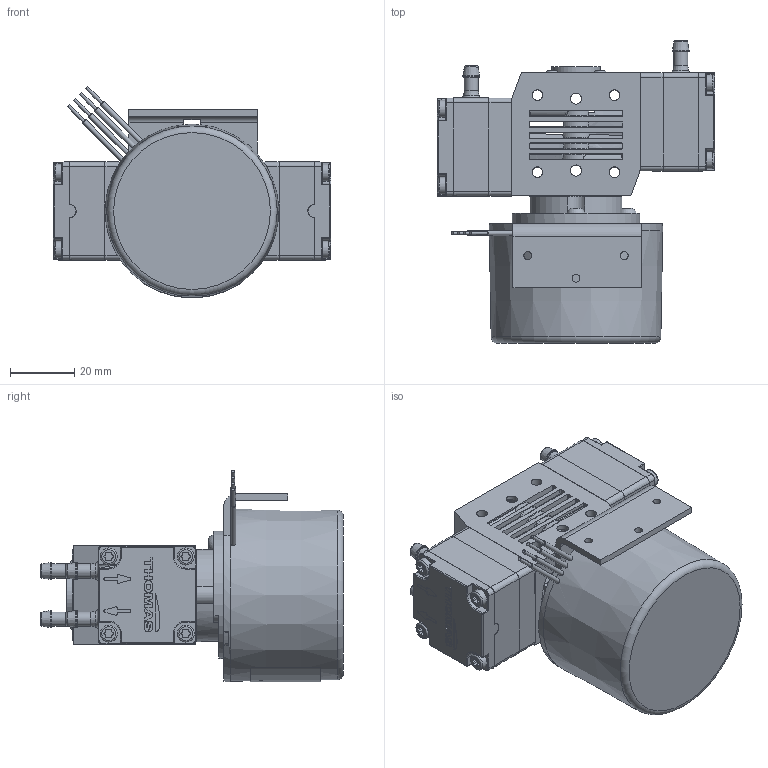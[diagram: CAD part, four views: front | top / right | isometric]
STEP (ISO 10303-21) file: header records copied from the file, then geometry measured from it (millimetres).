
FILE_DESCRIPTION (( 'STEP AP203' ), '1' );
FILE_NAME ('64200004-18.STEP', '2019-07-04T09:41:21', ( 'admin' ), ( 'Gardner Denver' ), 'SwSTEP 2.0', 'SolidWorks 2018', '' );
FILE_SCHEMA (( 'CONFIG_CONTROL_DESIGN' ));
Length unit declared in the file: millimetre
Products named in the file (1): 64200004-18
Bounding box: 86.4 x 94.25 x 65.8 mm (x, y, z)
Surface area: 36337.6 mm2 (no closed solid volume)
Topology: 0 solids, 33 shells, 1097 faces, 5082 edges, 3842 vertices
Faces by surface type: plane 496, cylinder 402, torus 92, cone 51, bspline 49, sphere 7
Full cylindrical faces by diameter (mm): 1 x4, 1.5 x4, 1.95 x4, 2.46 x3, 3 x1, 3.2 x4, 3.3 x8, 3.5 x8, 4.4 x4, 5 x4, 5.2 x4, 5.3 x8, 6 x1, 11 x1, 12.2 x1, 15 x1, 39.7 x1
Entity records: 52925 total; most frequent: CARTESIAN_POINT 13719, DIRECTION 7885, ORIENTED_EDGE 7202, EDGE_CURVE 4909, VERTEX_POINT 3787, LINE 3367, VECTOR 3367, AXIS2_PLACEMENT_3D 2259
